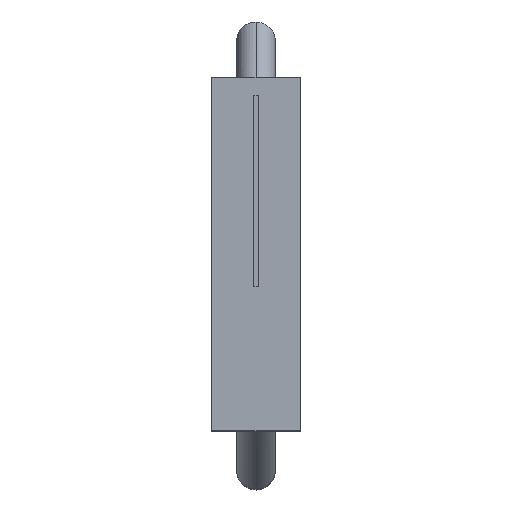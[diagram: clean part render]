
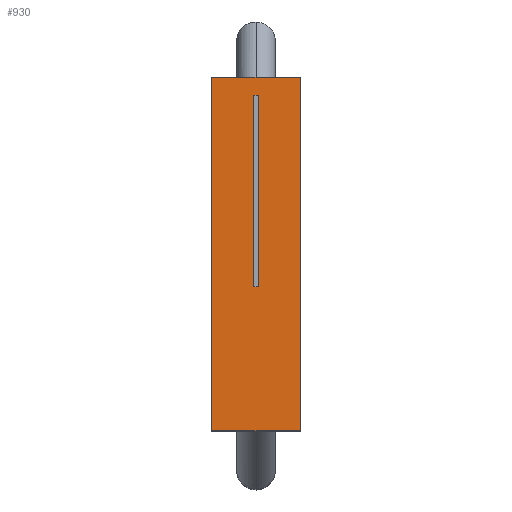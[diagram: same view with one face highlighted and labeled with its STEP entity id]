
A CAD part, top view. The second image highlights one B-rep face of the part: STEP entity #930.
In plain terms, the highlighted planar face has unit normal (0, 0, 1) as drawn and (-1, 0, 0) by its records, which use the part's own axes.
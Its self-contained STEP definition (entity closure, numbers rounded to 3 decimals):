
#292 = CARTESIAN_POINT ( 'NONE',  ( 0., 20., -2.5 ) ) ;
#293 = DIRECTION ( 'NONE',  ( 0., -1., 0. ) ) ;
#294 = VECTOR ( 'NONE', #293, 1000. ) ;
#295 = CARTESIAN_POINT ( 'NONE',  ( 0., 0., -2.5 ) ) ;
#296 = LINE ( 'NONE', #295, #294 ) ;
#297 = DIRECTION ( 'NONE',  ( 0., 1., 0. ) ) ;
#298 = VECTOR ( 'NONE', #297, 1000. ) ;
#299 = CARTESIAN_POINT ( 'NONE',  ( 0., 19., 0.133 ) ) ;
#300 = LINE ( 'NONE', #299, #298 ) ;
#301 = CARTESIAN_POINT ( 'NONE',  ( 0., 19., 0.133 ) ) ;
#302 = DIRECTION ( 'NONE',  ( 0., 0., -1. ) ) ;
#327 = VECTOR ( 'NONE', #302, 1000. ) ;
#328 = CARTESIAN_POINT ( 'NONE',  ( 0., 19., -0.132 ) ) ;
#329 = LINE ( 'NONE', #328, #327 ) ;
#330 = CARTESIAN_POINT ( 'NONE',  ( 0., 19., -0.132 ) ) ;
#378 = DIRECTION ( 'NONE',  ( 0., 0., -1. ) ) ;
#444 = DIRECTION ( 'NONE',  ( 1., 0., 0. ) ) ;
#445 = CARTESIAN_POINT ( 'NONE',  ( 0., 0., 2.5 ) ) ;
#446 = AXIS2_PLACEMENT_3D ( 'NONE', #445, #444, #378 ) ;
#447 = PLANE ( 'NONE',  #446 ) ;
#448 = FACE_OUTER_BOUND ( 'NONE', #898, .T. ) ;
#449 = FACE_BOUND ( 'NONE', #931, .T. ) ;
#662 = VECTOR ( 'NONE', #721, 1000. ) ;
#663 = CARTESIAN_POINT ( 'NONE',  ( 0., 19., -0.132 ) ) ;
#664 = LINE ( 'NONE', #663, #662 ) ;
#665 = CARTESIAN_POINT ( 'NONE',  ( 0., 8.15, 0.133 ) ) ;
#666 = CARTESIAN_POINT ( 'NONE',  ( 0., 8.15, -0.132 ) ) ;
#667 = DIRECTION ( 'NONE',  ( 0., 0., 1. ) ) ;
#668 = VECTOR ( 'NONE', #667, 1000. ) ;
#669 = CARTESIAN_POINT ( 'NONE',  ( 0., 8.15, -0.132 ) ) ;
#670 = LINE ( 'NONE', #669, #668 ) ;
#721 = DIRECTION ( 'NONE',  ( 0., -1., 0. ) ) ;
#805 = DIRECTION ( 'NONE',  ( 0., 0., -1. ) ) ;
#806 = VECTOR ( 'NONE', #805, 1000. ) ;
#807 = CARTESIAN_POINT ( 'NONE',  ( 0., 20., 2.5 ) ) ;
#808 = LINE ( 'NONE', #807, #806 ) ;
#809 = CARTESIAN_POINT ( 'NONE',  ( 0., 20., 2.5 ) ) ;
#810 = DIRECTION ( 'NONE',  ( 0., -1., 0. ) ) ;
#811 = VECTOR ( 'NONE', #810, 1000. ) ;
#812 = CARTESIAN_POINT ( 'NONE',  ( 0., 0., 2.5 ) ) ;
#813 = LINE ( 'NONE', #812, #811 ) ;
#814 = CARTESIAN_POINT ( 'NONE',  ( 0., 0., 2.5 ) ) ;
#815 = DIRECTION ( 'NONE',  ( 0., 0., -1. ) ) ;
#816 = VECTOR ( 'NONE', #815, 1000. ) ;
#817 = CARTESIAN_POINT ( 'NONE',  ( 0., 0., 2.5 ) ) ;
#818 = LINE ( 'NONE', #817, #816 ) ;
#819 = CARTESIAN_POINT ( 'NONE',  ( 0., 0., -2.5 ) ) ;
#892 = VERTEX_POINT ( 'NONE', #330 ) ;
#893 = ORIENTED_EDGE ( 'NONE', *, *, #894, .F. ) ;
#894 = EDGE_CURVE ( 'NONE', #895, #892, #329, .T. ) ;
#895 = VERTEX_POINT ( 'NONE', #301 ) ;
#896 = ORIENTED_EDGE ( 'NONE', *, *, #897, .F. ) ;
#897 = EDGE_CURVE ( 'NONE', #1116, #895, #300, .T. ) ;
#898 = EDGE_LOOP ( 'NONE', ( #899, #1178, #1181, #1184 ) ) ;
#899 = ORIENTED_EDGE ( 'NONE', *, *, #900, .T. ) ;
#900 = EDGE_CURVE ( 'NONE', #901, #1177, #296, .T. ) ;
#901 = VERTEX_POINT ( 'NONE', #292 ) ;
#930 = ADVANCED_FACE ( 'NONE', ( #449, #448 ), #447, .F. ) ;
#931 = EDGE_LOOP ( 'NONE', ( #932, #1117, #893, #896 ) ) ;
#932 = ORIENTED_EDGE ( 'NONE', *, *, #1114, .F. ) ;
#1114 = EDGE_CURVE ( 'NONE', #1115, #1116, #670, .T. ) ;
#1115 = VERTEX_POINT ( 'NONE', #666 ) ;
#1116 = VERTEX_POINT ( 'NONE', #665 ) ;
#1117 = ORIENTED_EDGE ( 'NONE', *, *, #1118, .F. ) ;
#1118 = EDGE_CURVE ( 'NONE', #892, #1115, #664, .T. ) ;
#1177 = VERTEX_POINT ( 'NONE', #819 ) ;
#1178 = ORIENTED_EDGE ( 'NONE', *, *, #1179, .F. ) ;
#1179 = EDGE_CURVE ( 'NONE', #1180, #1177, #818, .T. ) ;
#1180 = VERTEX_POINT ( 'NONE', #814 ) ;
#1181 = ORIENTED_EDGE ( 'NONE', *, *, #1182, .F. ) ;
#1182 = EDGE_CURVE ( 'NONE', #1183, #1180, #813, .T. ) ;
#1183 = VERTEX_POINT ( 'NONE', #809 ) ;
#1184 = ORIENTED_EDGE ( 'NONE', *, *, #1185, .T. ) ;
#1185 = EDGE_CURVE ( 'NONE', #1183, #901, #808, .T. ) ;
